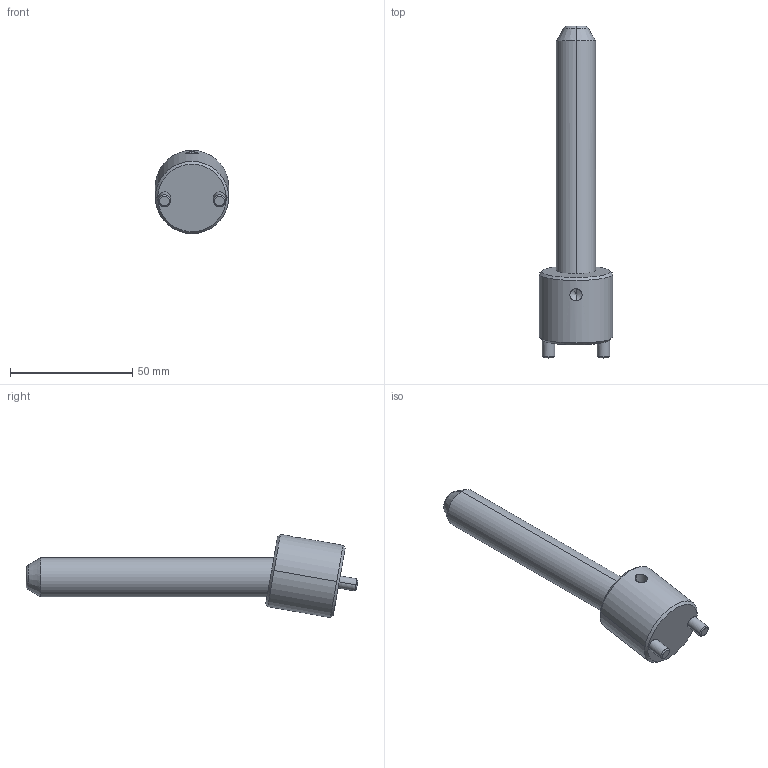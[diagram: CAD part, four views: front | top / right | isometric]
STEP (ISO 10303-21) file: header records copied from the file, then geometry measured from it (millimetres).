
FILE_DESCRIPTION(('CATIA V5 STEP Exchange'),'2;1');
FILE_NAME('C:\Users\Raffaele\Desktop\3D BOLEX\3D FILES CF BOLEX\19-INCLINED ASSEMBLY REF_CI\CI1016100.stp','2019-06-21T13:53:10+00:00',('none'),('none'),'CATIA Version 5 Release 20 GA (IN-10)','CATIA V5 STEP AP203','none');
FILE_SCHEMA(('CONFIG_CONTROL_DESIGN'));
Length unit declared in the file: millimetre
Products named in the file (1): CI1016100
Assembly tree (2 placements, depth 2):
  CI1016100
    #58
    #578
Bounding box: 30 x 135.83 x 34.06 mm (x, y, z)
Volume: 39345.1 mm3; surface area: 11975.5 mm2
Topology: 2 solids, 2 shells, 39 faces, 82 edges, 47 vertices
Faces by surface type: cone 14, cylinder 14, plane 7, torus 4
Entity records: 1479 total; most frequent: CARTESIAN_POINT 622, ORIENTED_EDGE 160, DIRECTION 144, EDGE_CURVE 80, AXIS2_PLACEMENT_3D 71, VERTEX_POINT 47, EDGE_LOOP 43, ADVANCED_FACE 39
